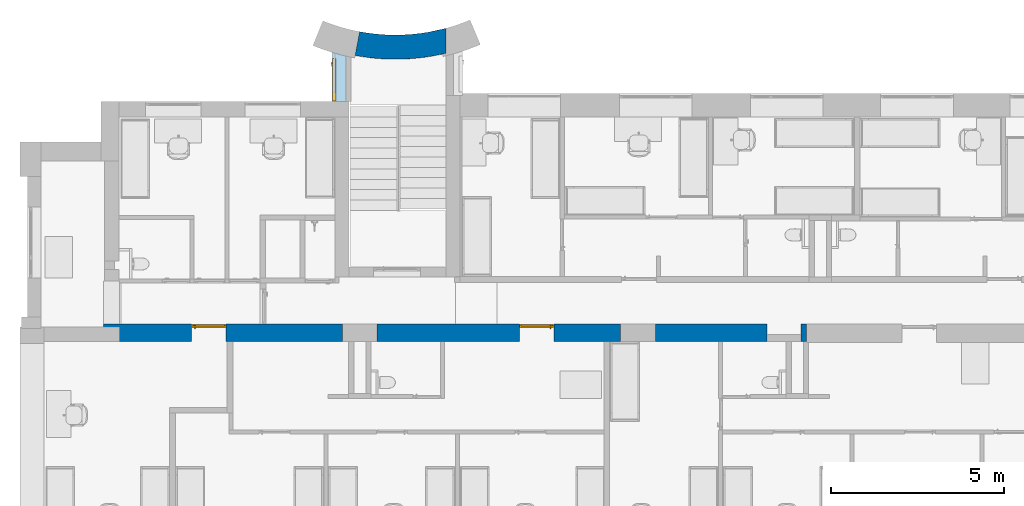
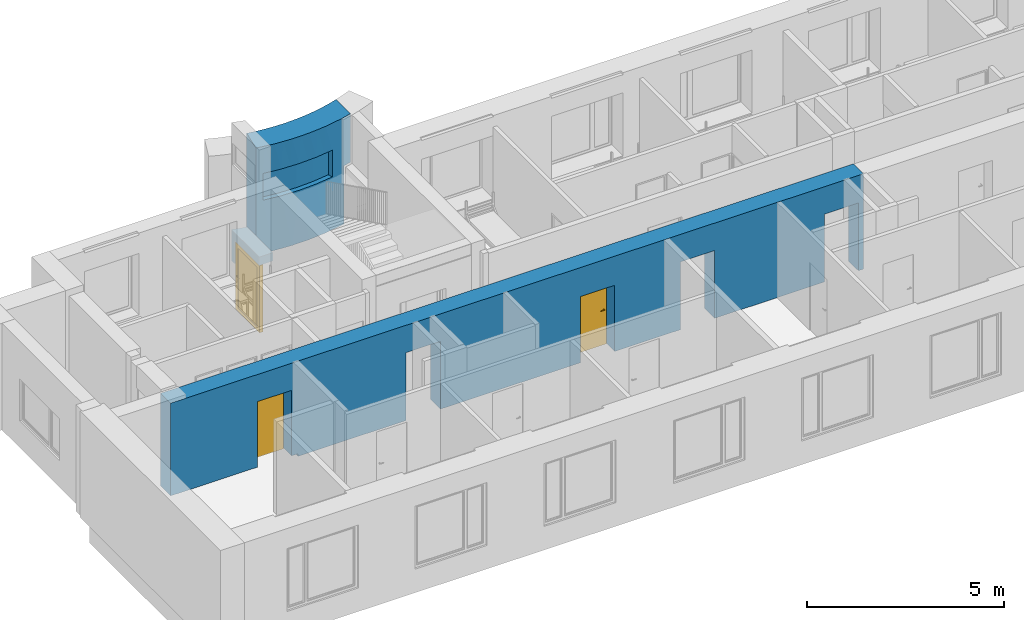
# One storey, part 18 of 46: 3 doors, 2 walls, 3 openings, plus 1 element that does not belong to this part.
"""IFC2X3 building model written with IfcOpenShell, lengths in millimetres."""

from ifc_helpers import new_model, entity, si_unit, converted_unit, derived_unit, direction, frame, frame_2d, origin, place, context, subcontext, project, spatial, rectangle, extrude, faceted_brep, source, transform, mapped, material, material_list, layer, layer_set, type_object, type_shapes, element, fill, save


model = new_model("IFC2X3")

# Units and contexts
model_context = context("Model", 3, precision=0.01, world=origin(), true_north=direction((6.12303176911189e-17, 1.0)))
body_context = subcontext(model_context, "Body", "Model", "MODEL_VIEW")
ifc_project = project(units=[si_unit("LENGTHUNIT", "METRE", prefix="MILLI"), si_unit("AREAUNIT", "SQUARE_METRE"), si_unit("VOLUMEUNIT", "CUBIC_METRE"), converted_unit("PLANEANGLEUNIT", "DEGREE", entity("IfcRatioMeasure", 0.0174532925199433), si_unit("PLANEANGLEUNIT", "RADIAN"), dimensions=[0, 0, 0, 0, 0, 0, 0]), si_unit("MASSUNIT", "GRAM", prefix="KILO"), derived_unit("MASSDENSITYUNIT", [(si_unit("MASSUNIT", "GRAM", prefix="KILO"), 1), (si_unit("LENGTHUNIT", "METRE"), -3)]), si_unit("TIMEUNIT", "SECOND"), si_unit("FREQUENCYUNIT", "HERTZ"), si_unit("THERMODYNAMICTEMPERATUREUNIT", "DEGREE_CELSIUS"), derived_unit("THERMALTRANSMITTANCEUNIT", [(si_unit("MASSUNIT", "GRAM", prefix="KILO"), 1), (si_unit("THERMODYNAMICTEMPERATUREUNIT", "KELVIN"), -1), (si_unit("TIMEUNIT", "SECOND"), -3)]), derived_unit("VOLUMETRICFLOWRATEUNIT", [(si_unit("LENGTHUNIT", "METRE"), 3), (si_unit("TIMEUNIT", "SECOND"), -1)]), si_unit("ELECTRICCURRENTUNIT", "AMPERE"), si_unit("ELECTRICVOLTAGEUNIT", "VOLT"), si_unit("POWERUNIT", "WATT"), si_unit("FORCEUNIT", "NEWTON", prefix="KILO"), si_unit("ILLUMINANCEUNIT", "LUX"), si_unit("LUMINOUSFLUXUNIT", "LUMEN"), si_unit("LUMINOUSINTENSITYUNIT", "CANDELA"), derived_unit("USERDEFINED", [(si_unit("MASSUNIT", "GRAM", prefix="KILO"), -1), (si_unit("LENGTHUNIT", "METRE"), -2), (si_unit("TIMEUNIT", "SECOND"), 3), (si_unit("LUMINOUSFLUXUNIT", "LUMEN"), 1)]), derived_unit("LINEARVELOCITYUNIT", [(si_unit("LENGTHUNIT", "METRE"), 1), (si_unit("TIMEUNIT", "SECOND"), -1)]), si_unit("PRESSUREUNIT", "PASCAL"), derived_unit("USERDEFINED", [(si_unit("LENGTHUNIT", "METRE"), -2), (si_unit("MASSUNIT", "GRAM", prefix="KILO"), 1), (si_unit("TIMEUNIT", "SECOND"), -2)]), derived_unit("LINEARFORCEUNIT", [(si_unit("MASSUNIT", "GRAM", prefix="KILO"), 1), (si_unit("LENGTHUNIT", "METRE"), 1), (si_unit("TIMEUNIT", "SECOND"), -2), (si_unit("LENGTHUNIT", "METRE"), -1)]), derived_unit("PLANARFORCEUNIT", [(si_unit("MASSUNIT", "GRAM", prefix="KILO"), 1), (si_unit("LENGTHUNIT", "METRE"), 1), (si_unit("TIMEUNIT", "SECOND"), -2), (si_unit("LENGTHUNIT", "METRE"), -2)])], contexts=[model_context])

# Site, building, storey
site_placement = place(None, origin())
site = spatial("IfcSite", under=ifc_project, at=site_placement, Name="Default", CompositionType="ELEMENT")
building_placement = place(site_placement, origin())
building = spatial("IfcBuilding", under=site, at=building_placement, Name="SMA ARH", CompositionType="ELEMENT")
storey_placement = place(building_placement, origin())
storey = spatial("IfcBuildingStorey", under=building, at=storey_placement, Name="1 Korrus", CompositionType="ELEMENT", Elevation=0.0)

# Wall
ifc_material_1 = material(Name="_ol.olev sein")
ifc_layer_1 = layer(ifc_material_1, 700.0)
ifc_layer_set_1 = layer_set([ifc_layer_1], Name="Basic Wall:Generic - 700mm")
wall_type_1 = type_object("IfcWallType", Name="Basic Wall:Generic - 700mm", PredefinedType="STANDARD", material=ifc_layer_set_1)
wall_1_placement = place(storey_placement, frame((11925.5628973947, 14785.6894380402, 0.0)))
element("IfcWall", 1, at=wall_1_placement, inside=storey, type_object=wall_type_1, Name="Basic Wall:Generic - 700mm", ObjectType="Basic Wall:Generic - 700mm", context=body_context, shape_type="Brep", body=[
    faceted_brep([(-1328.43014478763, 93.1003456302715, 3300.0), (-1577.74891161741, 78.1885345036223, 3300.0), (-1827.48550354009, 74.46832551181, 3300.0), (-2077.1377967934, 81.9471974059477, 3300.0), (-2326.20383719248, 100.610111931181, 3300.0), (-2574.18284936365, 130.419544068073, 3300.0), (-2820.57624336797, 171.315557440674, 3300.0), (-2950.6464905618, -516.493813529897, 3300.0), (-2699.09665418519, -553.570054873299, 3300.0), (-2447.54681780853, -590.646296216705, 3300.0), (-2193.81992577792, -607.215607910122, 3300.0), (-1940.09303374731, -623.78491960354, 3300.0), (-1685.85803486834, -619.738351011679, 3300.0), (-1431.62303598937, -615.691782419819, 3300.0), (-1178.55221655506, -591.055978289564, 3300.0), (-925.481397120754, -566.42017415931, 3300.0), (-675.241098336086, -521.357580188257, 3300.0), (-424.994060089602, -476.29321904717, 3300.0), (-264.769227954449, -438.463363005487, 3300.0), (-105.562897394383, -396.431419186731, 3300.0), (-105.562897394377, 333.701175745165, 3300.0), (-345.325270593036, 263.728047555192, 3300.0), (-587.983388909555, 204.573481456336, 3300.0), (-833.049373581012, 156.356409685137, 3300.0), (-1080.03048681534, 119.173778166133, 3300.0), (-569.999407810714, 208.563815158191, 0.0), (-325.562897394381, 269.056698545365, 0.0), (-325.562897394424, -453.340450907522, 0.0), (-375.245757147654, -465.022478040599, 0.0), (-425.029932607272, -476.300863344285, 0.0), (-925.481574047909, -566.420198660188, 0.0), (-1431.62251749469, -615.691753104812, 0.0), (-1940.09215163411, -623.784941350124, 0.0), (-2447.54606315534, -590.64637633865, 0.0), (-2950.6464905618, -516.493813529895, 0.0), (-2820.57624336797, 171.315557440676, 0.0), (-2572.15658755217, 130.130126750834, 0.0), (-2322.12936844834, 100.214276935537, 0.0), (-2071.00556527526, 81.6291477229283, 0.0), (-1819.29839816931, 74.4127222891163, 0.0), (-1567.52227954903, 78.5797496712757, 0.0), (-1316.19176281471, 94.121714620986, 0.0), (-1065.82049075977, 121.006855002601, 0.0), (-816.920145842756, 159.180226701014, 0.0), (-2762.23105172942, -549.157010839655, 1638.0), (-2253.18180223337, -608.227915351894, 1638.0), (-2762.23105172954, -549.157010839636, 2466.16773099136), (-2950.64649056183, -516.49381352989, 2475.0), (-2950.64649056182, -516.493813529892, 1650.0), (-1741.0088738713, -625.531141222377, 1638.0), (-1997.09533805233, -616.879528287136, 2466.16773099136), (-2507.70642698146, -578.692463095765, 2466.16773099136), (-2253.18180223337, -608.227915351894, 2466.16773099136), (-1485.07121939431, -613.241122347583, 2466.16773099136), (-1741.0088738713, -625.531141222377, 2466.16773099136), (-1229.13356491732, -600.951103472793, 2466.16773099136), (-975.054375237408, -567.801549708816, 2466.16773099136), (-1229.13356491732, -600.951103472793, 1638.0), (-720.975185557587, -534.651995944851, 1638.0), (-720.975185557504, -534.651995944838, 2466.16773099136), (-325.562897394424, -453.340450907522, 1800.0), (-215.305065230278, -425.882667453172, 1800.0), (-105.562897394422, -396.431419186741, 1800.0), (-215.230217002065, 300.246749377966, 1800.0), (-105.562897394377, 333.701175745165, 1800.0), (-325.562897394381, 269.056698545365, 1800.0), (-1734.75856003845, -485.480275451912, 2466.16773099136), (-1244.2741383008, -461.900717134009, 2466.16773099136), (-757.218121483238, -399.391517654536, 2466.16773099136), (-2713.58409484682, -415.500595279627, 2466.16773099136), (-2225.56476536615, -469.980844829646, 2466.16773099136), (-757.218121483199, -399.39151765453, 1638.0), (-1244.2741383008, -461.900717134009, 1638.0), (-1734.75856003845, -485.480275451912, 1638.0), (-2225.56476536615, -469.980844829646, 1638.0), (-2713.58409484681, -415.500595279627, 1638.0)], [[[0, 1, 2, 3, 4, 5, 6, 7, 8, 9, 10, 11, 12, 13, 14, 15, 16, 17, 18, 19, 20, 21, 22, 23, 24]], [[25, 26, 27, 28, 29, 30, 31, 32, 33, 34, 35, 36, 37, 38, 39, 40, 41, 42, 43]], [[34, 33, 44]], [[44, 33, 45]], [[34, 44, 46, 7, 47, 48]], [[32, 31, 49]], [[49, 45, 32]], [[32, 45, 33]], [[10, 50, 11]], [[7, 46, 8]], [[9, 51, 52]], [[53, 12, 54]], [[50, 54, 11]], [[51, 8, 46]], [[12, 11, 54]], [[13, 53, 55]], [[52, 10, 9]], [[14, 56, 15]], [[8, 51, 9]], [[49, 31, 57]], [[57, 30, 58]], [[30, 57, 31]], [[58, 30, 29]], [[59, 17, 16]], [[60, 28, 27]], [[58, 29, 60]], [[28, 60, 29]], [[56, 59, 15]], [[56, 14, 55]], [[16, 15, 59]], [[59, 60, 17]], [[55, 14, 13]], [[60, 61, 18]], [[19, 18, 61]], [[61, 62, 19]], [[60, 18, 17]], [[58, 60, 59]], [[12, 53, 13]], [[50, 10, 52]], [[63, 20, 64]], [[20, 63, 21]], [[23, 22, 43]], [[22, 21, 65]], [[24, 23, 42]], [[21, 63, 65]], [[25, 65, 26]], [[43, 65, 25]], [[43, 22, 65]], [[23, 43, 42]], [[42, 41, 24]], [[41, 0, 24]], [[39, 2, 1]], [[40, 1, 0]], [[36, 5, 4]], [[37, 4, 3]], [[38, 3, 2]], [[39, 38, 2]], [[1, 40, 39]], [[37, 36, 4]], [[3, 38, 37]], [[35, 5, 36]], [[5, 35, 6]], [[41, 40, 0]], [[65, 63, 64, 62, 61, 60]], [[27, 26, 65, 60]], [[62, 64, 20, 19]], [[35, 34, 48, 47, 7, 6]], [[66, 67, 68, 59, 56, 55, 53, 54, 50, 52, 51, 46, 69, 70]], [[57, 58, 71, 72, 73, 74, 75, 44, 45, 49]], [[58, 59, 68, 71]], [[68, 67, 72, 71]], [[72, 67, 66, 73]], [[70, 69, 75, 74]], [[70, 74, 73, 66]], [[75, 69, 46, 44]]]),
])

# Wall, opening, door
ifc_layer_2 = layer(ifc_material_1, 400.0)
ifc_layer_set_2 = layer_set([ifc_layer_2], Name="Basic Wall:Generic - 400mm")
wall_type_2 = type_object("IfcWallType", Name="Basic Wall:Generic - 400mm", PredefinedType="STANDARD", material=ifc_layer_set_2)
wall_2_placement = place(storey_placement, frame((8510.0, 14359.8455573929, 0.0), z_axis=(0.0, 0.0, 1.0), x_axis=(0.0, -1.0, 0.0)))
wall_2 = element("IfcWall", 2, at=wall_2_placement, inside=storey, type_object=wall_type_2, material=ifc_material_1, Name="Basic Wall:Generic - 400mm", ObjectType="Basic Wall:Generic - 400mm", context=body_context, shape_type="Brep", body=[
    faceted_brep([(164.845557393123, -200.0, 700.0), (1413.64251449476, -200.0, 700.0), (1413.64251449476, -200.0, 960.0), (0.0, -200.0, 960.0), (0.0, -200.0, 0.0), (164.845557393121, -200.0, 0.0), (1413.64251449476, 200.0, 960.0), (1413.64251449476, 200.0, 700.0), (164.845557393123, 200.0, 700.0), (164.845557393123, 200.0, 0.0), (106.47452316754, 200.0, 0.0), (106.47452316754, 200.0, 960.0), (56.5024807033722, -0.869156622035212, 0.0), (56.5024807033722, -0.869156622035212, 960.0)], [[[0, 1, 2, 3, 4, 5]], [[6, 7, 8, 9, 10, 11]], [[5, 4, 12, 10, 9]], [[3, 2, 6, 11, 13]], [[8, 7, 1, 0]], [[9, 8, 0, 5]], [[13, 12, 4, 3]], [[11, 10, 12, 13]], [[2, 1, 7, 6]]]),
])
opening_1_placement = place(wall_2_placement, frame((1414.84555739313, 200.0, -1400.0)))
opening_1 = element("IfcOpeningElement", 3, at=opening_1_placement, cuts=wall_2, Name="SMA_D01, 1-poolne:VU-01 - 1250x2100:1", ObjectType="Opening", context=body_context, shape_type="SweptSolid", body=[
    extrude(rectangle(XDim=2099.99999999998, YDim=1250.0, at=frame_2d((1049.99999999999, 625.0), x_axis=(1.0, 0.0))), frame((0.0, 0.0, 0.0), z_axis=(0.0, -1.0, 0.0), x_axis=(0.0, 0.0, 1.0)), (0.0, 0.0, 1.0), 400.0),
])
ifc_material_2 = material(Name="EST. Metall. Alumiinium. Värvitud. RAL7023 (Concrete grey)")
ifc_material_3 = material(Name="<Unnamed>")
ifc_material_list_1 = material_list([ifc_material_3, ifc_material_3, ifc_material_3, ifc_material_2, ifc_material_2, ifc_material_2, ifc_material_2])
door_style_1 = type_object("IfcDoorStyle", Name="SMA_D01, 1-poolne:VU-01 - 1250x2100", ConstructionType="NOTDEFINED", OperationType="SINGLE_SWING_LEFT", ParameterTakesPrecedence=False, Sizeable=False, material=ifc_material_list_1)
shared_shape_1 = source(origin(), body_context, "Body", "Brep", [
    faceted_brep([(1099.50000000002, 290.0, 1112.5), (1004.50000000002, 290.0, 1112.5), (1004.50000000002, 285.0, 1112.5), (1124.50000000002, 285.0, 1112.5), (1124.50000000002, 328.0, 1112.5), (1099.50000000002, 328.0, 1112.5), (1099.50000000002, 290.0, 1087.5), (1099.50000000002, 328.0, 1087.5), (1124.50000000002, 328.0, 1087.5), (1124.50000000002, 285.0, 1087.5), (1004.50000000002, 285.0, 1087.5), (1004.50000000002, 290.0, 1087.5)], [[[0, 1, 2, 3, 4, 5]], [[6, 7, 8, 9, 10, 11]], [[5, 7, 6, 0]], [[4, 8, 7, 5]], [[3, 9, 8, 4]], [[2, 10, 9, 3]], [[1, 11, 10, 2]], [[0, 6, 11, 1]]]),
    faceted_brep([(1087.0, 328.0, 1137.5), (1137.0, 328.0, 1137.5), (1137.0, 330.0, 1137.5), (1087.0, 330.0, 1137.5), (1087.0, 328.0, 1017.5), (1087.0, 330.0, 1017.5), (1137.0, 330.0, 1017.5), (1137.0, 328.0, 1017.5)], [[[0, 1, 2, 3]], [[4, 5, 6, 7]], [[3, 5, 4, 0]], [[2, 6, 5, 3]], [[1, 7, 6, 2]], [[0, 4, 7, 1]]]),
    faceted_brep([(1099.50000000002, 420.0, 1112.5), (1099.50000000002, 382.0, 1112.5), (1124.50000000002, 382.0, 1112.5), (1124.50000000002, 425.0, 1112.5), (1004.50000000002, 425.0, 1112.5), (1004.50000000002, 420.0, 1112.5), (1099.50000000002, 420.0, 1087.5), (1004.50000000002, 420.0, 1087.5), (1004.50000000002, 425.0, 1087.5), (1124.50000000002, 425.0, 1087.5), (1124.50000000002, 382.0, 1087.5), (1099.50000000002, 382.0, 1087.5)], [[[0, 1, 2, 3, 4, 5]], [[6, 7, 8, 9, 10, 11]], [[1, 0, 6, 11]], [[2, 1, 11, 10]], [[3, 2, 10, 9]], [[4, 3, 9, 8]], [[5, 4, 8, 7]], [[0, 5, 7, 6]]]),
    faceted_brep([(1087.0, 382.0, 1137.5), (1087.0, 380.0, 1137.5), (1137.0, 380.0, 1137.5), (1137.0, 382.0, 1137.5), (1087.0, 382.0, 1017.5), (1137.0, 382.0, 1017.5), (1137.0, 380.0, 1017.5), (1087.0, 380.0, 1017.5)], [[[0, 1, 2, 3]], [[4, 5, 6, 7]], [[1, 0, 4, 7]], [[2, 1, 7, 6]], [[3, 2, 6, 5]], [[0, 3, 5, 4]]]),
    faceted_brep([(70.0, 290.0, 30.0), (70.0, 330.0, 30.0), (70.0, 330.0, 0.0), (70.0, 290.0, 0.0), (1180.0, 290.0, 30.0), (1180.0, 290.0, 0.0), (1180.0, 330.0, 0.0), (1180.0, 330.0, 30.0), (75.5000000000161, 330.0, 0.0), (75.5000000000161, 380.0, 0.0), (1174.50000000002, 380.0, 0.0), (1174.50000000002, 330.0, 0.0), (1174.50000000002, 330.0, 20.0), (75.5000000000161, 330.0, 20.0), (75.5000000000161, 380.0, 20.0), (1174.50000000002, 380.0, 20.0)], [[[0, 1, 2, 3]], [[4, 5, 6, 7]], [[3, 5, 4, 0]], [[2, 8, 9, 10, 11, 6, 5, 3]], [[1, 7, 6, 11, 12, 13, 8, 2]], [[0, 4, 7, 1]], [[14, 9, 8, 13]], [[15, 12, 11, 10]], [[13, 12, 15, 14]], [[14, 15, 10, 9]]]),
    faceted_brep([(10.0, 290.0, 0.0), (10.0, 380.0, 0.0), (75.5000000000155, 380.0, 0.0), (75.5000000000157, 330.0, 0.0), (70.0, 330.0, 0.0), (70.0, 290.0, 0.0), (70.0, 290.0, 2030.0), (1180.0, 290.0, 2030.0), (1180.0, 290.0, 0.0), (1240.0, 290.0, 0.0), (1240.0, 290.0, 2090.0), (10.0, 290.0, 2090.0), (70.0, 330.0, 2030.0), (75.5000000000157, 330.0, 2024.49999999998), (1174.50000000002, 330.0, 2024.49999999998), (1174.50000000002, 330.0, 0.0), (1180.0, 330.0, 0.0), (1180.0, 330.0, 2030.0), (75.5000000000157, 380.0, 2024.49999999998), (10.0, 380.0, 2090.0), (1240.0, 380.0, 2090.0), (1240.0, 380.0, 0.0), (1174.50000000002, 380.0, 0.0), (1174.50000000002, 380.0, 2024.49999999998)], [[[0, 1, 2, 3, 4, 5]], [[5, 6, 7, 8, 9, 10, 11, 0]], [[4, 12, 6, 5]], [[3, 13, 14, 15, 16, 17, 12, 4]], [[2, 18, 13, 3]], [[1, 19, 20, 21, 22, 23, 18, 2]], [[0, 11, 19, 1]], [[9, 21, 20, 10]], [[8, 16, 15, 22, 21, 9]], [[7, 17, 16, 8]], [[14, 23, 22, 15]], [[6, 12, 17, 7]], [[13, 18, 23, 14]], [[10, 20, 19, 11]]]),
    faceted_brep([(145.0, 345.0, 95.0), (1105.0, 345.0, 95.0), (1105.0, 345.0, 1955.0), (145.0, 345.0, 1955.0), (145.0, 365.0, 95.0), (145.0, 365.0, 1955.0), (1105.0, 365.0, 1955.0), (1105.0, 365.0, 95.0)], [[[0, 1, 2, 3]], [[4, 5, 6, 7]], [[3, 5, 4, 0]], [[2, 6, 5, 3]], [[1, 7, 6, 2]], [[0, 4, 7, 1]]]),
    faceted_brep([(75.5000000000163, 330.0, 20.0), (1174.50000000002, 330.0, 20.0), (1174.50000000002, 330.0, 2024.49999999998), (75.5000000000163, 330.0, 2024.49999999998), (1105.0, 330.0, 95.0), (145.0, 330.0, 95.0), (145.0, 330.0, 1955.0), (1105.0, 330.0, 1955.0), (75.5000000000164, 380.0, 20.0), (75.5000000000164, 380.0, 2024.49999999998), (1174.50000000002, 380.0, 2024.49999999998), (1174.50000000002, 380.0, 20.0), (1105.0, 380.0, 1955.0), (145.0, 380.0, 1955.0), (145.0, 380.0, 95.0), (1105.0, 380.0, 95.0)], [[[0, 1, 2, 3], [4, 5, 6, 7]], [[8, 9, 10, 11], [12, 13, 14, 15]], [[3, 9, 8, 0]], [[2, 10, 9, 3]], [[1, 11, 10, 2]], [[0, 8, 11, 1]], [[12, 15, 4, 7]], [[15, 14, 5, 4]], [[14, 13, 6, 5]], [[7, 6, 13, 12]]]),
])
type_shapes(door_style_1, [shared_shape_1])
door_1_placement = place(opening_1_placement, frame((0.0, 0.0, 0.0), z_axis=(0.0, 0.0, 1.0), x_axis=(-1.0, 0.0, 0.0)))
door_1 = element("IfcDoor", 4, at=door_1_placement, inside=storey, type_object=door_style_1, material=ifc_material_2, Name="SMA_D01, 1-poolne:VU-01 - 1250x2100", ObjectType="SMA_D01, 1-poolne:VU-01 - 1250x2100", OverallHeight=2099.99999999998, OverallWidth=1250.0, context=body_context, shape_type="MappedRepresentation", body=[
    mapped(shared_shape_1, transform((0.0, 0.0, 0.0), scale=1.0)),
])
fill(opening_1, door_1)

# Wall, openings, doors
ifc_layer_3 = layer(ifc_material_1, 510.0)
ifc_layer_set_3 = layer_set([ifc_layer_3], Name="Basic Wall:Generic - 510mm")
wall_type_3 = type_object("IfcWallType", Name="Basic Wall:Generic - 510mm", PredefinedType="STANDARD", material=ifc_layer_set_3)
wall_3_placement = place(storey_placement, frame((1710.0, 6265.0, 0.0)))
wall_3 = element("IfcWall", 5, at=wall_3_placement, inside=storey, type_object=wall_type_3, Name="Basic Wall:Generic - 510mm", ObjectType="Basic Wall:Generic - 510mm", context=body_context, shape_type="Brep", body=[
    faceted_brep([(20295.0, -255.0, 0.0), (20295.0, -255.0, 2950.0), (20210.0, -255.0, 2950.0), (17878.0, -255.0, 2950.0), (17762.0, -255.0, 2950.0), (14610.4999999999, -255.0, 2950.0), (14448.0, -255.0, 2950.0), (456.807837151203, -255.0, 2950.0), (0.0, -255.0, 2950.0), (0.0, -255.0, 80.0), (2543.0, -255.0, 80.0), (2543.0, -255.0, 2110.0), (3543.0, -255.0, 2110.0), (3543.0, -255.0, 80.0), (3735.0, -255.0, 80.0), (3735.0, -255.0, 0.0), (6900.0, -255.0, 0.0), (6900.0, -255.0, 2100.0), (7900.0, -255.0, 2100.0), (7900.0, -255.0, 0.0), (9732.0, -255.0, 0.0), (9848.0, -255.0, 0.0), (12010.0, -255.0, 0.0), (12010.0, -255.0, 2050.0), (13010.0, -255.0, 2050.0), (13010.0, -255.0, 0.0), (14448.0, -255.0, 0.0), (14610.5, -255.0, 0.0), (14935.0, -255.0, 0.0), (14935.0, -255.0, 2100.0), (15935.0, -255.0, 2100.0), (15935.0, -255.0, 0.0), (17762.0, -255.0, 0.0), (17878.0, -255.0, 0.0), (19155.0, -255.0, 0.0), (19155.0, -255.0, 2100.0), (20145.0, -255.0, 2100.0), (20145.0, -255.0, 0.0), (20210.0, -255.0, 0.0), (20295.0, 255.0, 2950.0), (20295.0, 255.0, 2940.0), (20295.0, 255.0, 0.0), (20145.0, 255.0, 0.0), (20145.0, 255.0, 2100.0), (19155.0, 255.0, 2100.0), (19155.0, 255.0, 0.0), (15935.0, 255.0, 0.0), (15935.0, 255.0, 2100.0), (14935.0, 255.0, 2100.0), (14935.0, 255.0, 0.0), (13010.0, 255.0, 0.0), (13010.0, 255.0, 2050.0), (12010.0, 255.0, 2050.0), (12010.0, 255.0, 0.0), (11361.25, 255.0, 0.0), (10161.25, 255.0, 0.0), (7900.0, 255.0, 0.0), (7900.0, 255.0, 80.0), (7900.0, 255.0, 2100.0), (6900.0, 255.0, 2100.0), (6900.0, 255.0, 80.0), (6900.0, 255.0, 0.0), (4687.82130046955, 255.0, 0.0), (4525.32130046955, 255.0, 0.0), (3735.0, 255.0, 0.0), (3735.0, 255.0, 80.0), (3543.0, 255.0, 80.0), (3543.0, 255.0, 2110.0), (2543.0, 255.0, 2110.0), (2543.0, 255.0, 80.0), (0.0, 255.0, 80.0), (0.0, 255.0, 2950.0), (4525.32130046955, 255.0, 2950.0), (4687.82130046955, 255.0, 2950.0), (0.0, 165.0, 2950.0), (19155.0, -55.0, 2100.0), (20145.0, -55.0, 2100.0), (19155.0, -55.0, 0.0), (20145.0, -55.0, 0.0)], [[[0, 1, 2, 3, 4, 5, 6, 7, 8, 9, 10, 11, 12, 13, 14, 15, 16, 17, 18, 19, 20, 21, 22, 23, 24, 25, 26, 27, 28, 29, 30, 31, 32, 33, 34, 35, 36, 37, 38]], [[39, 40, 41, 42, 43, 44, 45, 46, 47, 48, 49, 50, 51, 52, 53, 54, 55, 56, 57, 58, 59, 60, 61, 62, 63, 64, 65, 66, 67, 68, 69, 70, 71, 72, 73]], [[25, 50, 49, 28, 27, 26]], [[1, 0, 41, 40, 39]], [[8, 7, 6, 5, 4, 3, 2, 1, 39, 73, 72, 71, 74]], [[8, 74, 71, 70, 9]], [[12, 67, 66, 13]], [[67, 12, 11, 68]], [[68, 11, 10, 69]], [[52, 23, 22, 53]], [[23, 52, 51, 24]], [[24, 51, 50, 25]], [[35, 75, 44, 43, 76, 36]], [[44, 75, 35, 34, 77, 45]], [[36, 76, 43, 42, 78, 37]], [[17, 59, 58, 18]], [[59, 17, 16, 61, 60]], [[18, 58, 57, 56, 19]], [[29, 48, 47, 30]], [[48, 29, 28, 49]], [[30, 47, 46, 31]], [[65, 14, 13, 66]], [[14, 65, 64, 15]], [[10, 9, 70, 69]], [[61, 16, 15, 64, 63, 62]], [[53, 22, 21, 20, 19, 56, 55, 54]], [[45, 77, 34, 33, 32, 31, 46]], [[41, 0, 38, 37, 78, 42]]]),
])
opening_2_placement = place(wall_3_placement, frame((3543.0, 255.0, 60.0)))
opening_2 = element("IfcOpeningElement", 6, at=opening_2_placement, cuts=wall_3, Name="SMA_D01, 1-poolne:SU-P-09 - 1000x2050:1", ObjectType="Opening", context=body_context, shape_type="SweptSolid", body=[
    extrude(rectangle(XDim=2049.99999999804, YDim=1000.0, at=frame_2d((1024.99999999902, 500.0), x_axis=(1.0, 0.0))), frame((0.0, 0.0, 0.0), z_axis=(0.0, -1.0, 0.0), x_axis=(0.0, 0.0, 1.0)), (0.0, 0.0, 1.0), 510.0),
])
opening_3_placement = place(wall_3_placement, frame((13010.0, 255.0, 0.0)))
opening_3 = element("IfcOpeningElement", 7, at=opening_3_placement, cuts=wall_3, Name="SMA_D01, 1-poolne:SU-P-04 - 1000x2050 EI-30:1", ObjectType="Opening", context=body_context, shape_type="SweptSolid", body=[
    extrude(rectangle(XDim=2049.99999999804, YDim=1000.0, at=frame_2d((1024.99999999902, 500.0), x_axis=(1.0, 0.0))), frame((0.0, 0.0, 0.0), z_axis=(0.0, -1.0, 0.0), x_axis=(0.0, 0.0, 1.0)), (0.0, 0.0, 1.0), 510.0),
])
ifc_material_4 = material(Name="EST. Klaas. 3x. Default")
ifc_material_list_2 = material_list([ifc_material_3, ifc_material_2, ifc_material_4, ifc_material_2, ifc_material_2, ifc_material_3, ifc_material_3])
door_style_2 = type_object("IfcDoorStyle", Name="SMA_D01, 1-poolne:SU-P-09 - 1000x2050", ConstructionType="NOTDEFINED", OperationType="SINGLE_SWING_LEFT", ParameterTakesPrecedence=False, Sizeable=False, material=ifc_material_list_2)
shared_shape_2 = source(origin(), body_context, "Body", "Brep", [
    faceted_brep([(890.0, 20.0, 1112.5), (795.0, 20.0, 1112.5), (795.0, 15.0, 1112.5), (915.0, 15.0, 1112.5), (915.0, 58.0, 1112.5), (890.0, 58.0, 1112.5), (890.0, 20.0, 1087.5), (890.0, 58.0, 1087.5), (915.0, 58.0, 1087.5), (915.0, 15.0, 1087.5), (795.0, 15.0, 1087.5), (795.0, 20.0, 1087.5)], [[[0, 1, 2, 3, 4, 5]], [[6, 7, 8, 9, 10, 11]], [[5, 7, 6, 0]], [[4, 8, 7, 5]], [[3, 9, 8, 4]], [[2, 10, 9, 3]], [[1, 11, 10, 2]], [[0, 6, 11, 1]]]),
    faceted_brep([(877.500000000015, 58.0, 1137.5), (927.500000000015, 58.0, 1137.5), (927.500000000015, 60.0, 1137.5), (877.500000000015, 60.0, 1137.5), (877.500000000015, 58.0, 1017.5), (877.500000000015, 60.0, 1017.5), (927.500000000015, 60.0, 1017.5), (927.500000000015, 58.0, 1017.5)], [[[0, 1, 2, 3]], [[4, 5, 6, 7]], [[3, 5, 4, 0]], [[2, 6, 5, 3]], [[1, 7, 6, 2]], [[0, 4, 7, 1]]]),
    faceted_brep([(890.0, 150.0, 1112.5), (890.0, 112.0, 1112.5), (915.0, 112.0, 1112.5), (915.0, 155.0, 1112.5), (795.0, 155.0, 1112.5), (795.0, 150.0, 1112.5), (890.0, 150.0, 1087.5), (795.0, 150.0, 1087.5), (795.0, 155.0, 1087.5), (915.0, 155.0, 1087.5), (915.0, 112.0, 1087.5), (890.0, 112.0, 1087.5)], [[[0, 1, 2, 3, 4, 5]], [[6, 7, 8, 9, 10, 11]], [[1, 0, 6, 11]], [[2, 1, 11, 10]], [[3, 2, 10, 9]], [[4, 3, 9, 8]], [[5, 4, 8, 7]], [[0, 5, 7, 6]]]),
    faceted_brep([(877.500000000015, 112.0, 1137.5), (877.500000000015, 110.0, 1137.5), (927.500000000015, 110.0, 1137.5), (927.500000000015, 112.0, 1137.5), (877.500000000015, 112.0, 1017.5), (927.500000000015, 112.0, 1017.5), (927.500000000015, 110.0, 1017.5), (877.500000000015, 110.0, 1017.5)], [[[0, 1, 2, 3]], [[4, 5, 6, 7]], [[1, 0, 4, 7]], [[2, 1, 7, 6]], [[3, 2, 6, 5]], [[0, 3, 5, 4]]]),
    faceted_brep([(50.0, 20.0, 30.0), (50.0, 60.0, 30.0), (50.0, 60.0, 20.0), (50.0, 60.0, 0.0), (50.0, 20.0, 0.0), (950.0, 20.0, 30.0), (950.0, 20.0, 0.0), (950.0, 60.0, 0.0), (950.0, 60.0, 20.0), (950.0, 60.0, 30.0), (35.0, 60.0, 0.0), (35.0, 110.0, 0.0), (965.0, 110.0, 0.0), (965.0, 60.0, 0.0), (35.0, 110.0, 20.0), (35.0, 60.0, 20.0), (965.0, 110.0, 20.0), (965.0, 60.0, 20.0)], [[[0, 1, 2, 3, 4]], [[5, 6, 7, 8, 9]], [[4, 6, 5, 0]], [[3, 10, 11, 12, 13, 7, 6, 4]], [[9, 8, 2, 1]], [[0, 5, 9, 1]], [[14, 11, 10, 15]], [[16, 17, 13, 12]], [[15, 2, 8, 17, 16, 14]], [[10, 3, 2, 15]], [[14, 16, 12, 11]], [[17, 8, 7, 13]]]),
    faceted_brep([(10.0, 20.0, 0.0), (10.0, 110.0, 0.0), (35.0, 110.0, 0.0), (35.0, 60.0, 0.0), (50.0, 60.0, 0.0), (50.0, 20.0, 0.0), (50.0, 20.0, 2000.0), (950.0, 20.0, 2000.0), (950.0, 20.0, 0.0), (990.0, 20.0, 0.0), (990.0, 20.0, 2040.0), (10.0, 20.0, 2040.0), (50.0, 60.0, 2000.0), (35.0, 60.0, 2015.0), (965.0, 60.0, 2015.0), (965.0, 60.0, 0.0), (950.0, 60.0, 0.0), (950.0, 60.0, 2000.0), (35.0, 110.0, 2015.0), (10.0, 110.0, 2040.0), (990.0, 110.0, 2040.0), (990.0, 110.0, 0.0), (965.0, 110.0, 0.0), (965.0, 110.0, 2015.0)], [[[0, 1, 2, 3, 4, 5]], [[5, 6, 7, 8, 9, 10, 11, 0]], [[4, 12, 6, 5]], [[3, 13, 14, 15, 16, 17, 12, 4]], [[2, 18, 13, 3]], [[1, 19, 20, 21, 22, 23, 18, 2]], [[0, 11, 19, 1]], [[9, 21, 20, 10]], [[8, 16, 15, 22, 21, 9]], [[7, 17, 16, 8]], [[14, 23, 22, 15]], [[6, 12, 17, 7]], [[13, 18, 23, 14]], [[10, 20, 19, 11]]]),
    faceted_brep([(965.0, 60.0, 2015.0), (35.0, 60.0, 2015.0), (35.0, 60.0, 20.0), (965.0, 60.0, 20.0), (965.0, 110.0, 2015.0), (965.0, 110.0, 20.0), (35.0, 110.0, 20.0), (35.0, 110.0, 2015.0)], [[[0, 1, 2, 3]], [[4, 5, 6, 7]], [[3, 5, 4, 0]], [[2, 6, 5, 3]], [[1, 7, 6, 2]], [[0, 4, 7, 1]]]),
])
type_shapes(door_style_2, [shared_shape_2])
door_2_placement = place(opening_2_placement, frame((0.0, 0.0, 0.0), z_axis=(0.0, 0.0, 1.0), x_axis=(-1.0, 0.0, 0.0)))
door_2 = element("IfcDoor", 8, at=door_2_placement, inside=storey, type_object=door_style_2, material=ifc_material_2, Name="SMA_D01, 1-poolne:SU-P-09 - 1000x2050", ObjectType="SMA_D01, 1-poolne:SU-P-09 - 1000x2050", OverallHeight=2049.99999999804, OverallWidth=1000.0, context=body_context, shape_type="MappedRepresentation", body=[
    mapped(shared_shape_2, transform((0.0, 0.0, 0.0), scale=1.0)),
])
fill(opening_2, door_2)
ifc_material_list_3 = material_list([ifc_material_2, ifc_material_2, ifc_material_3, ifc_material_4, ifc_material_3, ifc_material_3, ifc_material_2])
door_style_3 = type_object("IfcDoorStyle", Name="SMA_D01, 1-poolne:SU-P-04 - 1000x2050 EI-30", ConstructionType="NOTDEFINED", OperationType="SINGLE_SWING_RIGHT", ParameterTakesPrecedence=False, Sizeable=False, material=ifc_material_list_3)
shared_shape_3 = source(origin(), body_context, "Body", "Brep", [
    faceted_brep([(110.0, 20.0, 1112.5), (110.0, 58.0, 1112.5), (85.0, 58.0, 1112.5), (85.0, 15.0, 1112.5), (205.0, 15.0, 1112.5), (205.0, 20.0, 1112.5), (110.0, 20.0, 1087.5), (205.0, 20.0, 1087.5), (205.0, 15.0, 1087.5), (85.0, 15.0, 1087.5), (85.0, 58.0, 1087.5), (110.0, 58.0, 1087.5)], [[[0, 1, 2, 3, 4, 5]], [[6, 7, 8, 9, 10, 11]], [[1, 0, 6, 11]], [[2, 1, 11, 10]], [[3, 2, 10, 9]], [[4, 3, 9, 8]], [[5, 4, 8, 7]], [[0, 5, 7, 6]]]),
    faceted_brep([(122.5, 58.0, 1137.5), (122.5, 60.0, 1137.5), (72.4999999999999, 60.0, 1137.5), (72.4999999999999, 58.0, 1137.5), (122.5, 58.0, 1017.5), (72.4999999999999, 58.0, 1017.5), (72.4999999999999, 60.0, 1017.5), (122.5, 60.0, 1017.5)], [[[0, 1, 2, 3]], [[4, 5, 6, 7]], [[1, 0, 4, 7]], [[2, 1, 7, 6]], [[3, 2, 6, 5]], [[0, 3, 5, 4]]]),
    faceted_brep([(110.0, 150.0, 1112.5), (205.0, 150.0, 1112.5), (205.0, 155.0, 1112.5), (85.0, 155.0, 1112.5), (85.0, 112.0, 1112.5), (110.0, 112.0, 1112.5), (110.0, 150.0, 1087.5), (110.0, 112.0, 1087.5), (85.0, 112.0, 1087.5), (85.0, 155.0, 1087.5), (205.0, 155.0, 1087.5), (205.0, 150.0, 1087.5)], [[[0, 1, 2, 3, 4, 5]], [[6, 7, 8, 9, 10, 11]], [[5, 7, 6, 0]], [[4, 8, 7, 5]], [[3, 9, 8, 4]], [[2, 10, 9, 3]], [[1, 11, 10, 2]], [[0, 6, 11, 1]]]),
    faceted_brep([(122.5, 112.0, 1137.5), (72.4999999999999, 112.0, 1137.5), (72.4999999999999, 110.0, 1137.5), (122.5, 110.0, 1137.5), (122.5, 112.0, 1017.5), (122.5, 110.0, 1017.5), (72.4999999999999, 110.0, 1017.5), (72.4999999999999, 112.0, 1017.5)], [[[0, 1, 2, 3]], [[4, 5, 6, 7]], [[3, 5, 4, 0]], [[2, 6, 5, 3]], [[1, 7, 6, 2]], [[0, 4, 7, 1]]]),
    faceted_brep([(950.0, 20.0, 30.0), (950.0, 20.0, 0.0), (950.0, 60.0, 0.0), (950.0, 60.0, 20.0), (950.0, 60.0, 30.0), (50.0, 20.0, 30.0), (50.0, 60.0, 30.0), (50.0, 60.0, 20.0), (50.0, 60.0, 0.0), (50.0, 20.0, 0.0), (35.0, 60.0, 0.0), (35.0, 110.0, 0.0), (965.0, 110.0, 0.0), (965.0, 60.0, 0.0), (965.0, 110.0, 20.0), (965.0, 60.0, 20.0), (35.0, 110.0, 20.0), (35.0, 60.0, 20.0)], [[[0, 1, 2, 3, 4]], [[5, 6, 7, 8, 9]], [[1, 0, 5, 9]], [[2, 1, 9, 8, 10, 11, 12, 13]], [[6, 4, 3, 7]], [[0, 4, 6, 5]], [[14, 15, 13, 12]], [[16, 11, 10, 17]], [[15, 14, 16, 17, 7, 3]], [[13, 15, 3, 2]], [[14, 12, 11, 16]], [[17, 10, 8, 7]]]),
    faceted_brep([(990.0, 20.0, 0.0), (950.0, 20.0, 0.0), (950.0, 60.0, 0.0), (965.0, 60.0, 0.0), (965.0, 110.0, 0.0), (990.0, 110.0, 0.0), (990.0, 20.0, 2040.0), (10.0, 20.0, 2040.0), (10.0, 20.0, 0.0), (50.0, 20.0, 0.0), (50.0, 20.0, 2000.0), (950.0, 20.0, 2000.0), (950.0, 60.0, 2000.0), (50.0, 60.0, 2000.0), (50.0, 60.0, 0.0), (35.0, 60.0, 0.0), (35.0, 60.0, 2015.0), (965.0, 60.0, 2015.0), (965.0, 110.0, 2015.0), (35.0, 110.0, 2015.0), (35.0, 110.0, 0.0), (10.0, 110.0, 0.0), (10.0, 110.0, 2040.0), (990.0, 110.0, 2040.0)], [[[0, 1, 2, 3, 4, 5]], [[1, 0, 6, 7, 8, 9, 10, 11]], [[2, 1, 11, 12]], [[3, 2, 12, 13, 14, 15, 16, 17]], [[4, 3, 17, 18]], [[5, 4, 18, 19, 20, 21, 22, 23]], [[0, 5, 23, 6]], [[8, 7, 22, 21]], [[9, 8, 21, 20, 15, 14]], [[10, 9, 14, 13]], [[16, 15, 20, 19]], [[11, 10, 13, 12]], [[17, 16, 19, 18]], [[7, 6, 23, 22]]]),
    faceted_brep([(35.0, 60.0, 2015.0), (35.0, 60.0, 20.0), (965.0, 60.0, 20.0), (965.0, 60.0, 2015.0), (35.0, 110.0, 2015.0), (965.0, 110.0, 2015.0), (965.0, 110.0, 20.0), (35.0, 110.0, 20.0)], [[[0, 1, 2, 3]], [[4, 5, 6, 7]], [[1, 0, 4, 7]], [[2, 1, 7, 6]], [[3, 2, 6, 5]], [[0, 3, 5, 4]]]),
])
type_shapes(door_style_3, [shared_shape_3])
door_3_placement = place(opening_3_placement, frame((0.0, 0.0, 0.0), z_axis=(0.0, 0.0, 1.0), x_axis=(-1.0, 0.0, 0.0)))
door_3 = element("IfcDoor", 9, at=door_3_placement, inside=storey, type_object=door_style_3, material=ifc_material_2, Name="SMA_D01, 1-poolne:SU-P-04 - 1000x2050 EI-30", ObjectType="SMA_D01, 1-poolne:SU-P-04 - 1000x2050 EI-30", OverallHeight=2049.99999999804, OverallWidth=1000.0, context=body_context, shape_type="MappedRepresentation", body=[
    mapped(shared_shape_3, transform((0.0, 0.0, 0.0), scale=1.0)),
])
fill(opening_3, door_3)

save(model, "model.ifc")
